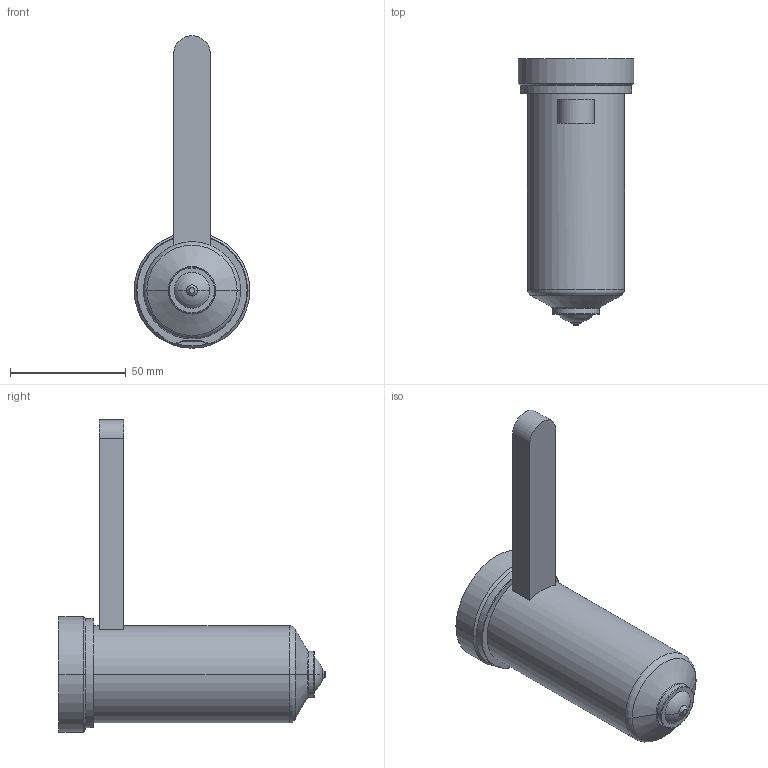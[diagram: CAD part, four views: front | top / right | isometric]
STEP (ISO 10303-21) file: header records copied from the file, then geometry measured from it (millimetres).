
FILE_DESCRIPTION((''),'2;1');
FILE_NAME('EO16_PG-BL_STD_100_COT','2024-02-19T11:16:32',('sundharh'),(''),'CREO PARAMETRIC BY PTC INC, 2023154','CREO PARAMETRIC BY PTC INC, 2023154','');
FILE_SCHEMA(('CONFIG_CONTROL_DESIGN'));
Length unit declared in the file: millimetre
Products named in the file (1): EO16_PG-BL_STD_100_COT
Bounding box: 50 x 115 x 135 mm (x, y, z)
Volume: 169220.4 mm3; surface area: 22509.2 mm2
Topology: 1 solids, 1 shells, 40 faces, 85 edges, 50 vertices
Faces by surface type: cylinder 13, plane 10, torus 9, cone 6, sphere 2
Entity records: 1201 total; most frequent: CARTESIAN_POINT 271, DIRECTION 209, ORIENTED_EDGE 170, AXIS2_PLACEMENT_3D 90, EDGE_CURVE 85, VERTEX_POINT 50, CIRCLE 50, EDGE_LOOP 43
